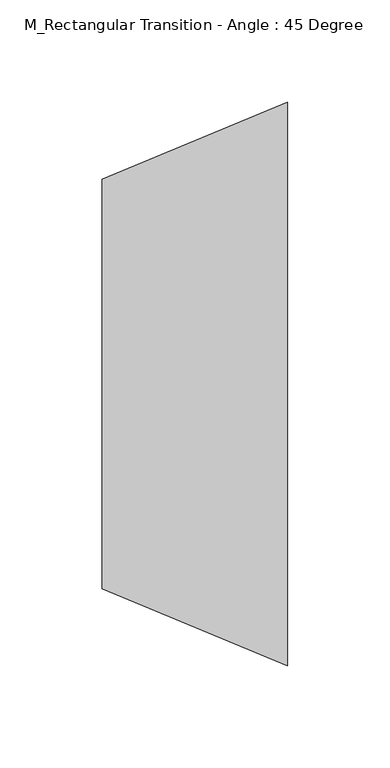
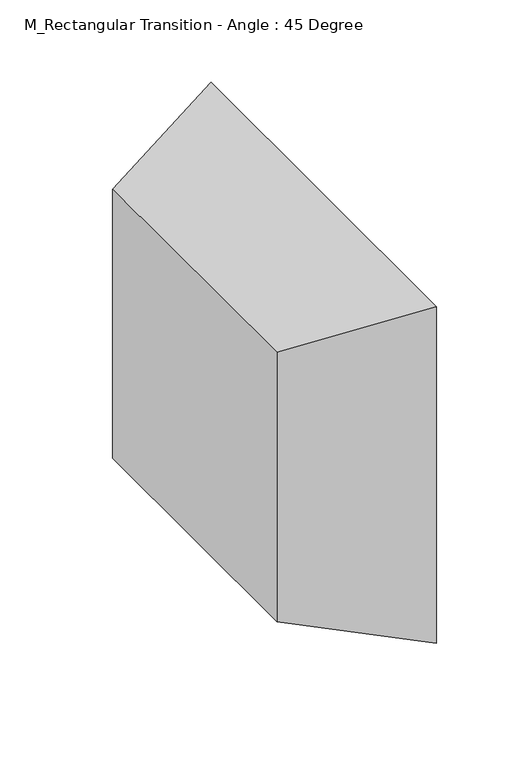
"""IFC4 building model written with IfcOpenShell, lengths in millimetres: duct fitting geometry, M_Rectangular Transition - Angle : 45 Degree."""

import ifcopenshell
import ifcopenshell.guid

model = None  # the IFC model being written
_history = None  # IfcOwnerHistory: only IFC2X3 demands one
_inside = {}  # id of a spatial element -> (the spatial element, [elements in it])
_under = {}  # id of a project, library or spatial element -> (it, [spatial elements below it])
_declared = {}  # id of a project -> (the project, [libraries it declares])
_typed = {}  # id of a type object -> (the type object, [elements of that type])
_made_of = {}  # id of a material, layer set ... -> (it, [elements and type objects made of it])


def new_model(schema):
    """Start an empty IFC model of exactly this schema.

    Asked for "IFC4X3", IfcOpenShell would pick the latest addendum, in which some entities
    have other attributes; the version numbers below select the first issue.
    IFC2X3 requires an IfcOwnerHistory on every rooted entity: one is made here for all.
    """
    global model, _history
    if schema == "IFC4X3":
        model = ifcopenshell.file(schema_version=(4, 3, 0, 0))
    else:
        model = ifcopenshell.file(schema=schema)
    _inside.clear()
    _under.clear()
    _declared.clear()
    _typed.clear()
    _made_of.clear()
    _history = None
    if model.schema == "IFC2X3":
        org = make("IfcOrganization", Name="unknown")
        user = make(
            "IfcPersonAndOrganization",
            ThePerson=make("IfcPerson", FamilyName="unknown"),
            TheOrganization=org,
        )
        app = make(
            "IfcApplication",
            ApplicationDeveloper=org,
            Version="unknown",
            ApplicationFullName="unknown",
            ApplicationIdentifier="unknown",
        )
        _history = make(
            "IfcOwnerHistory",
            OwningUser=user,
            OwningApplication=app,
            ChangeAction="ADDED",
            CreationDate=0,
        )
    return model


def make(cls, **values):
    """One entity of the class cls with the attributes given. An attribute that is None is left unset."""
    return model.create_entity(
        cls, **{name: value for name, value in values.items() if value is not None}
    )


def rooted(cls, **values):
    """An entity with a GlobalId (a new one), such as an element, a storey or a relation."""
    return make(cls, GlobalId=ifcopenshell.guid.new(), OwnerHistory=_history, **values)


def si_unit(unit_type, name, prefix=None):
    """IfcSIUnit, for example si_unit("LENGTHUNIT", "METRE", prefix="MILLI")."""
    return make("IfcSIUnit", UnitType=unit_type, Prefix=prefix, Name=name)


def assignment(units):
    """IfcUnitAssignment: the units of a project."""
    return None if units is None else make("IfcUnitAssignment", Units=units)


def point(xyz):
    """IfcCartesianPoint."""
    return None if xyz is None else make("IfcCartesianPoint", Coordinates=xyz)


def direction(xyz):
    """IfcDirection."""
    return None if xyz is None else make("IfcDirection", DirectionRatios=xyz)


def frame(location, z_axis=None, x_axis=None):
    """IfcAxis2Placement3D, a coordinate frame: its origin and axes. An axis left out is left unset."""
    return make(
        "IfcAxis2Placement3D",
        Location=point(location),
        Axis=direction(z_axis),
        RefDirection=direction(x_axis),
    )


def origin():
    """The frame at (0, 0, 0) with its axes left unset."""
    return frame((0.0, 0.0, 0.0))


def place(relative_to, where):
    """IfcLocalPlacement: puts the frame where relative to a parent placement (None: the world)."""
    return make(
        "IfcLocalPlacement", PlacementRelTo=relative_to, RelativePlacement=where
    )


def context(
    kind, dimensions, precision=None, world=None, true_north=None, identifier=None
):
    """IfcGeometricRepresentationContext, for example the 3D "Model" context."""
    return make(
        "IfcGeometricRepresentationContext",
        ContextIdentifier=identifier,
        ContextType=kind,
        CoordinateSpaceDimension=dimensions,
        Precision=precision,
        WorldCoordinateSystem=world,
        TrueNorth=true_north,
    )


def project(units=None, contexts=None):
    """IfcProject with its units and contexts."""
    return rooted(
        "IfcProject",
        Name="project",
        RepresentationContexts=contexts,
        UnitsInContext=assignment(units),
    )


def spatial(cls, under=None, at=None, **own):
    """A site, building, storey or space (cls), placed at a placement, below another one or the project."""
    s = rooted(cls, ObjectPlacement=at, **own)
    if under is not None:
        _under.setdefault(under.id(), (under, []))[1].append(s)
    return s


def faces_of(points, faces, orient=None, outer=None):
    """IfcFace entities. A face is a list of loops; a loop is a list of indices into points, from 0.

    orient and outer hold one flag for each loop. By default every Orientation is true, the
    first loop of a face is its IfcFaceOuterBound and the others are IfcFaceBound.
    """
    made = []
    for i, loops in enumerate(faces):
        bounds = []
        for j, loop in enumerate(loops):
            is_outer = j == 0 if outer is None else outer[i][j]
            bounds.append(
                make(
                    "IfcFaceOuterBound" if is_outer else "IfcFaceBound",
                    Bound=make("IfcPolyLoop", Polygon=[points[k] for k in loop]),
                    Orientation=True if orient is None else orient[i][j],
                )
            )
        made.append(make("IfcFace", Bounds=bounds))
    return made


def faceted_brep(points, faces, orient=None, outer=None, voids=None):
    """IfcFacetedBrep: a solid bounded by flat faces; with voids (closed shells), ...WithVoids."""
    shared = [point(p) for p in points]
    hull = make("IfcClosedShell", CfsFaces=faces_of(shared, faces, orient, outer))
    if voids is None:
        return make("IfcFacetedBrep", Outer=hull)
    return make(
        "IfcFacetedBrepWithVoids",
        Outer=hull,
        Voids=[
            make(cls, CfsFaces=faces_of(shared, fs, o, b)) for cls, fs, o, b in voids
        ],
    )


def shape(context_of_items, identifier, shape_type, items):
    """IfcShapeRepresentation: the items that make up one representation, for example the "Body"."""
    return make(
        "IfcShapeRepresentation",
        ContextOfItems=context_of_items,
        RepresentationIdentifier=identifier,
        RepresentationType=shape_type,
        Items=items,
    )


def source(mapping_origin, context_of_items, identifier, shape_type, items):
    """IfcRepresentationMap: a shape defined once, which mapped items show again and again."""
    return make(
        "IfcRepresentationMap",
        MappingOrigin=mapping_origin,
        MappedRepresentation=shape(context_of_items, identifier, shape_type, items),
    )


def transform(
    local_origin,
    x_axis=None,
    y_axis=None,
    z_axis=None,
    scale=None,
    scale2=None,
    scale3=None,
    uniform=True,
):
    """IfcCartesianTransformationOperator3D, or its non-uniform kind. x_axis, y_axis, z_axis: its Axis1, 2, 3."""
    if uniform:
        return make(
            "IfcCartesianTransformationOperator3D",
            Axis1=direction(x_axis),
            Axis2=direction(y_axis),
            LocalOrigin=point(local_origin),
            Scale=scale,
            Axis3=direction(z_axis),
        )
    return make(
        "IfcCartesianTransformationOperator3DnonUniform",
        Axis1=direction(x_axis),
        Axis2=direction(y_axis),
        LocalOrigin=point(local_origin),
        Scale=scale,
        Axis3=direction(z_axis),
        Scale2=scale2,
        Scale3=scale3,
    )


def mapped(mapping_source, mapping_target):
    """IfcMappedItem: shows the shape of a source again, moved by a transform."""
    return make(
        "IfcMappedItem", MappingSource=mapping_source, MappingTarget=mapping_target
    )


def made_of(thing, what):
    """Note that an element or type object is made of a material, layer set ...; save() writes the relation."""
    if what is not None:
        _made_of.setdefault(what.id(), (what, []))[1].append(thing)
    return thing


def element(
    cls,
    number,
    at=None,
    inside=None,
    cuts=None,
    type_object=None,
    material=None,
    context=None,
    identifier="Body",
    shape_type=None,
    held_by="IfcProductDefinitionShape",
    body=None,
    shapes=None,
    **own,
):
    """One element of the class cls, such as IfcWall. Its Tag is "e" and its number.

    at: its placement. inside: the storey or other place that contains it. cuts: it is an
    opening in that element (IfcRelVoidsElement). A single representation is given by context,
    identifier, shape_type and body (its items); several are given by shapes. held_by: the class
    of the entity that holds the representations. save() writes the other relations.
    """
    e = rooted(cls, Tag="e%d" % number, ObjectPlacement=at, **own)
    if body is not None:
        shapes = [shape(context, identifier, shape_type, body)]
    if shapes is not None:
        e.Representation = make(held_by, Representations=shapes)
    if inside is not None:
        _inside.setdefault(inside.id(), (inside, []))[1].append(e)
    if cuts is not None:
        rooted(
            "IfcRelVoidsElement", RelatingBuildingElement=cuts, RelatedOpeningElement=e
        )
    if type_object is not None:
        _typed.setdefault(type_object.id(), (type_object, []))[1].append(e)
    return made_of(e, material)


def aggregate(whole, parts):
    """IfcRelAggregates: a whole, such as a stair, and the parts it consists of."""
    return rooted("IfcRelAggregates", RelatingObject=whole, RelatedObjects=parts)


def save(model, path):
    """Write the relations noted so far, then the file.

    IfcRelAggregates (storeys below a building ...), IfcRelContainedInSpatialStructure (elements
    in a storey), IfcRelDefinesByType, IfcRelAssociatesMaterial and IfcRelDeclares: one each for
    every whole, place, type object, material and project.
    """
    for whole, parts in _under.values():
        aggregate(whole, parts)
    for where, things in _inside.values():
        rooted(
            "IfcRelContainedInSpatialStructure",
            RelatedElements=things,
            RelatingStructure=where,
        )
    for kind, things in _typed.values():
        rooted("IfcRelDefinesByType", RelatedObjects=things, RelatingType=kind)
    for what, things in _made_of.values():
        rooted("IfcRelAssociatesMaterial", RelatedObjects=things, RelatingMaterial=what)
    for by, libraries in _declared.values():
        rooted("IfcRelDeclares", RelatingContext=by, RelatedDefinitions=libraries)
    model.write(path)


def m_rectangular_transition_angle_45_degree_9cf3db8e(model_context):
    return source(origin(), model_context, "Body", "Brep", [
        faceted_brep([(90.5330086, -137.5, 125.0), (90.5330086, -137.5, -125.0), (90.5330086, 137.5, -125.0), (90.5330086, 137.5, 125.0), (0.0, -100.0, 100.0), (0.0, 100.0, 100.0), (0.0, 100.0, -100.0), (0.0, -100.0, -100.0)], [[[0, 1, 2, 3]], [[4, 5, 6, 7]], [[4, 7, 1, 0]], [[7, 6, 2, 1]], [[6, 5, 3, 2]], [[5, 4, 0, 3]]]),
        faceted_brep([(90.5330086, -137.5, 125.0), (90.5330086, -137.5, -125.0), (90.5330086, 137.5, -125.0), (90.5330086, 137.5, 125.0), (0.0, -100.0, 100.0), (0.0, 100.0, 100.0), (0.0, 100.0, -100.0), (0.0, -100.0, -100.0)], [[[0, 1, 2, 3]], [[4, 5, 6, 7]], [[4, 7, 1, 0]], [[7, 6, 2, 1]], [[6, 5, 3, 2]], [[5, 4, 0, 3]]]),
        faceted_brep([(90.5330086, -137.5, 125.0), (90.5330086, -137.5, -125.0), (90.5330086, 137.5, -125.0), (90.5330086, 137.5, 125.0), (0.0, -100.0, 100.0), (0.0, 100.0, 100.0), (0.0, 100.0, -100.0), (0.0, -100.0, -100.0)], [[[0, 1, 2, 3]], [[4, 5, 6, 7]], [[4, 7, 1, 0]], [[7, 6, 2, 1]], [[6, 5, 3, 2]], [[5, 4, 0, 3]]]),
    ])


if __name__ == "__main__":
    model = new_model("IFC4")
    model_context = context("Model", 3, world=origin())
    ifc_project = project(units=[si_unit("LENGTHUNIT", "METRE", prefix="MILLI")], contexts=[model_context])
    site = spatial("IfcSite", under=ifc_project)
    building = spatial("IfcBuilding", under=site)
    placement = place(None, origin())
    m_rectangular_transition_angle_45_degree_shape = m_rectangular_transition_angle_45_degree_9cf3db8e(model_context)
    element("IfcDuctFitting", 1, ObjectType="M_Rectangular Transition - Angle : 45 Degree", at=placement, inside=building, context=model_context, shape_type="MappedRepresentation", body=[
        mapped(m_rectangular_transition_angle_45_degree_shape, transform((0.0, 0.0, 0.0), x_axis=(1.0, 0.0, 0.0), y_axis=(0.0, 1.0, 0.0), z_axis=(0.0, 0.0, 1.0))),
    ])
    save(model, "model.ifc")
